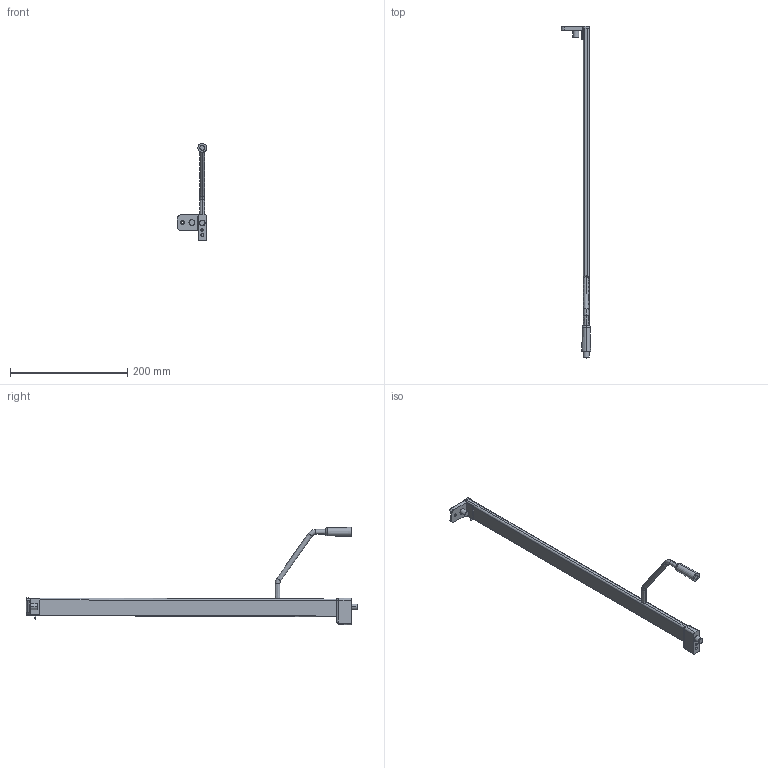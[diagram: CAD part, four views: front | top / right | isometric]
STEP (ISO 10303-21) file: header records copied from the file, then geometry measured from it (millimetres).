
FILE_DESCRIPTION (( 'STEP AP214' ), '1' );
FILE_NAME ('_2S_REL_7606_NL550_RE_Frontstütze.step', '2010-07-01T14:41:57', ( 'grass' ), ( '' ), 'SwSTEP 2.0', 'SolidWorks 2009', '' );
FILE_SCHEMA (( 'AUTOMOTIVE_DESIGN' ));
Length unit declared in the file: millimetre
Products named in the file (1): _2S_REL_7606_NL550_RE_Frontstütze
Bounding box: 49.75 x 565.5 x 165.5 mm (x, y, z)
Volume: 199987.5 mm3; surface area: 55279.2 mm2
Topology: 2 solids, 2 shells, 142 faces, 341 edges, 207 vertices
Faces by surface type: cylinder 60, plane 46, bspline 16, torus 12, cone 6, sphere 2
Entity records: 5412 total; most frequent: CARTESIAN_POINT 2208, ORIENTED_EDGE 678, DIRECTION 655, EDGE_CURVE 339, AXIS2_PLACEMENT_3D 251, VERTEX_POINT 207, LINE 153, VECTOR 153
